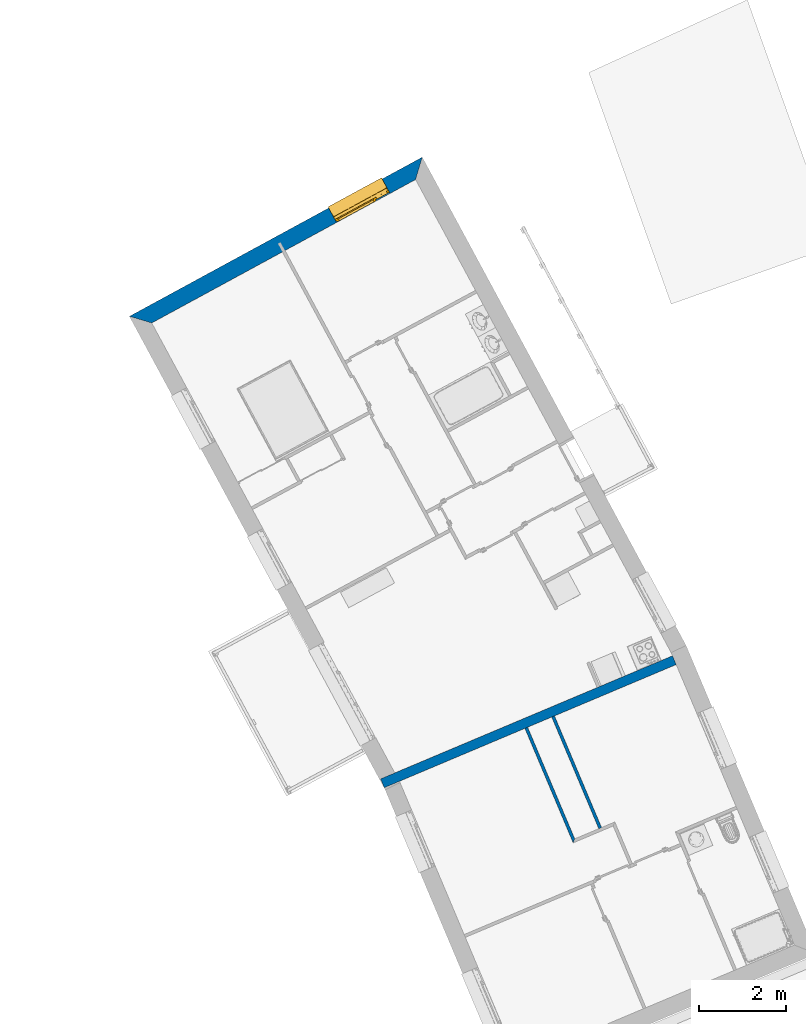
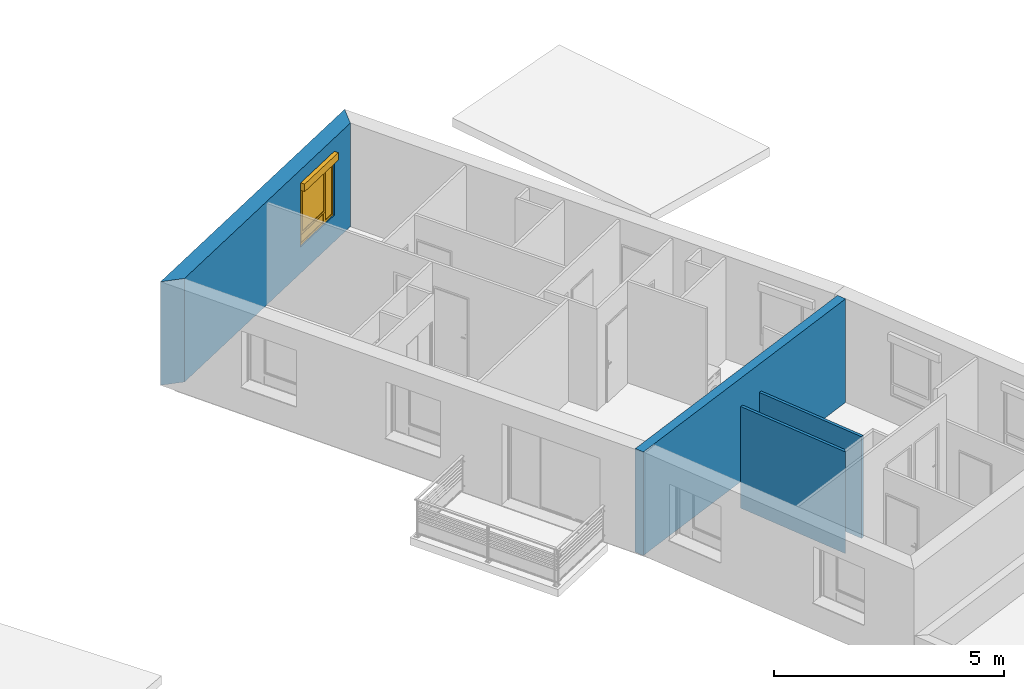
# One storey, part 54 of 121: 4 walls, 1 window, 1 opening.
"""IFC2X3 building model written with IfcOpenShell, lengths in metres."""

from ifc_helpers import new_model, entity, si_unit, converted_unit, derived_unit, money_unit, direction, frame, origin_with_axes, place, context, subcontext, project, spatial, polyline, outline, extrude, open_shell, faceted_brep, surface_model, source, transform, mapped, material, layer, layer_set, layer_usage, type_object, element, fill, save


model = new_model("IFC2X3")

# Units and contexts
model_context = context("Model", 3, precision=1e-05, world=origin_with_axes(), true_north=direction((0.0, 1.0)))
body_context = subcontext(model_context, "Body", "Model", "MODEL_VIEW")
ifc_project = project(units=[si_unit("LENGTHUNIT", "METRE"), si_unit("AREAUNIT", "SQUARE_METRE"), si_unit("VOLUMEUNIT", "CUBIC_METRE"), converted_unit("PLANEANGLEUNIT", "DEGREE", entity("IfcPlaneAngleMeasure", 0.0174532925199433), si_unit("PLANEANGLEUNIT", "RADIAN"), dimensions=[0, 0, 0, 0, 0, 0, 0]), money_unit("CHF"), converted_unit("TIMEUNIT", "Year", entity("IfcTimeMeasure", 31557600.0), si_unit("TIMEUNIT", "SECOND"), dimensions=[0, 0, 1, 0, 0, 0, 0]), si_unit("MASSUNIT", "GRAM", prefix="KILO"), si_unit("THERMODYNAMICTEMPERATUREUNIT", "DEGREE_CELSIUS"), si_unit("LUMINOUSINTENSITYUNIT", "LUMEN"), si_unit("ENERGYUNIT", "JOULE", prefix="MEGA"), derived_unit("THERMALCONDUCTANCEUNIT", [(si_unit("POWERUNIT", "WATT"), 1), (si_unit("LENGTHUNIT", "METRE"), -1), (si_unit("THERMODYNAMICTEMPERATUREUNIT", "KELVIN"), -1)]), derived_unit("SPECIFICHEATCAPACITYUNIT", [(si_unit("ENERGYUNIT", "JOULE"), 1), (si_unit("MASSUNIT", "GRAM", prefix="KILO"), -1), (si_unit("THERMODYNAMICTEMPERATUREUNIT", "KELVIN"), -1)]), derived_unit("MASSDENSITYUNIT", [(si_unit("MASSUNIT", "GRAM", prefix="KILO"), 1), (si_unit("VOLUMEUNIT", "CUBIC_METRE"), -1)])], contexts=[model_context])

# Site, building, storey
site_placement = place(None, origin_with_axes())
site = spatial("IfcSite", under=ifc_project, at=site_placement, Name="Site", CompositionType="ELEMENT")
building_placement = place(site_placement, origin_with_axes())
building = spatial("IfcBuilding", under=site, at=building_placement, Name="Bâtiment", CompositionType="ELEMENT")
storey_placement = place(building_placement, frame((0.0, 0.0, 2.75), z_axis=(0.0, 0.0, 1.0), x_axis=(1.0, 0.0, 0.0)))
storey = spatial("IfcBuildingStorey", under=building, at=storey_placement, Name="Etage 1", CompositionType="ELEMENT", Elevation=2.75)

# Walls
ifc_material_1 = material(Name="Hachure solide 268963992")
ifc_layer_1 = layer(ifc_material_1, 0.07, ventilated="UNKNOWN")
ifc_layer_set_1 = layer_set([ifc_layer_1], Name="Cloison 70 0826278243")
ifc_layer_usage_1 = layer_usage(ifc_layer_set_1, "AXIS2", "NEGATIVE", 0.0)
wall_type_1 = type_object("IfcWallType", Name="Cloison 70 0826278243 70", PredefinedType="NOTDEFINED")
wall_1_placement = place(storey_placement, frame((9563.625403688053, -1036.921802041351, 57.0), z_axis=(0.0, 0.0, 1.0), x_axis=(0.3885669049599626, -0.9214205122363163, 0.0)))
element("IfcWallStandardCase", 1, at=wall_1_placement, inside=storey, type_object=wall_type_1, material=ifc_layer_usage_1, Name="Mur-150", context=body_context, shape_type="SweptSolid", body=[
    extrude(outline(polyline([(0.2200000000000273, -0.06999999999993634), (3.077648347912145, -0.06999999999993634), (3.007648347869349, 0.0), (0.219999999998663, 0.0), (0.2200000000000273, -0.06999999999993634)])), origin_with_axes(), (0.0, 0.0, 1.0), 2.7),
])
ifc_layer_usage_2 = layer_usage(ifc_layer_set_1, "AXIS2", "NEGATIVE", 0.0)
wall_2_placement = place(storey_placement, frame((9564.242755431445, -1036.661462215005, 57.0), z_axis=(0.0, 0.0, 1.0), x_axis=(0.3885669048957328, -0.9214205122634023, 0.0)))
element("IfcWallStandardCase", 2, at=wall_2_placement, inside=storey, type_object=wall_type_1, material=ifc_layer_usage_2, Name="Mur-150", context=body_context, shape_type="SweptSolid", body=[
    extrude(outline(polyline([(0.2199999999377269, -0.07000000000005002), (3.007648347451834, -0.07000000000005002), (3.007648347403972, 0.0), (0.2199999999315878, 0.0), (0.2199999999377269, -0.07000000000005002)])), origin_with_axes(), (0.0, 0.0, 1.0), 2.7),
])

# Wall, opening, window
ifc_material_2 = material(Name="Parpaing 312445824")
ifc_layer_2 = layer(ifc_material_2, 0.22, ventilated="UNKNOWN")
ifc_material_3 = material(Name="Isolant styromousse 301821074")
ifc_layer_3 = layer(ifc_material_3, 0.16, ventilated="UNKNOWN")
ifc_layer_set_2 = layer_set([ifc_layer_2, ifc_layer_3], Name="isol int 22+16 0836643197")
ifc_layer_usage_3 = layer_usage(ifc_layer_set_2, "AXIS2", "POSITIVE", 0.0)
wall_type_2 = type_object("IfcWallType", Name="isol int 22+16 0836643197 380", PredefinedType="NOTDEFINED")
wall_3_placement = place(storey_placement, frame((9561.285709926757, -1024.008620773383, 57.7), z_axis=(0.0, 0.0, 1.0), x_axis=(-0.8785914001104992, -0.4775742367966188, 0.0)))
wall_3 = element("IfcWallStandardCase", 3, at=wall_3_placement, inside=storey, type_object=wall_type_2, material=ifc_layer_usage_3, Name="Mur-113", context=body_context, shape_type="SweptSolid", body=[
    extrude(outline(polyline([(0.0, 0.0), (7.669939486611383, 0.0), (7.29091314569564, 0.3799999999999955), (0.3809761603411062, 0.3799999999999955), (0.0, 0.0)])), origin_with_axes(), (0.0, 0.0, 1.0), 2.75),
])
opening_placement = place(wall_3_placement, frame((1.750943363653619, 0.0, 0.7000000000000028), z_axis=(0.0, 0.0, 1.0), x_axis=(1.0, 0.0, 0.0)))
opening = element("IfcOpeningElement", 4, at=opening_placement, cuts=wall_3, Name="Fen-045", context=body_context, shape_type="Brep", body=[
    faceted_brep([(-0.7000000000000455, 0.3000000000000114, 1.5), (-0.7000000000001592, 0.4800000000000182, 1.5), (-0.7000000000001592, 3.599249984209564, 1.5), (-0.7000000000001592, 3.599249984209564, 0.0), (-0.7000000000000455, 0.3000000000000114, 0.0), (-0.7000000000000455, 0.2200000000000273, 1.5), (-0.7000000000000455, 0.2200000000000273, 1.700000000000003), (-0.7000000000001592, 0.4800000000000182, 1.700000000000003), (0.6999999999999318, 0.480000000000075, 1.5), (0.6999999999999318, 3.599249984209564, 1.5), (0.6999999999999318, 3.599249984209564, 0.0), (0.6999999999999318, 0.2999999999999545, 0.0), (-0.7000000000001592, -3.219249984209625, 0.0), (-0.7000000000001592, -3.219249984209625, 1.5), (0.6999999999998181, 0.2200000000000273, 1.5), (0.6999999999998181, 0.2200000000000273, 1.700000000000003), (0.6999999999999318, 0.480000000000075, 1.700000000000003), (0.6999999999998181, 0.2999999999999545, 1.5), (0.6999999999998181, -3.219249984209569, 0.0), (0.6999999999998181, -3.219249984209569, 1.5)], [[[0, 1, 2, 3, 4]], [[1, 0, 5, 6, 7]], [[1, 8, 9, 2]], [[9, 10, 3, 2]], [[11, 4, 3, 10]], [[5, 0, 4, 12, 13]], [[5, 14, 15, 6]], [[7, 6, 15, 16]], [[8, 1, 7, 16]], [[8, 17, 11, 10, 9]], [[4, 11, 18, 12]], [[13, 12, 18, 19]], [[14, 5, 13, 19]], [[17, 8, 16, 15, 14]], [[17, 14, 19, 18, 11]]]),
])
window_style = type_object("IfcWindowStyle", Name="Fenêtre variable 27", ConstructionType="NOTDEFINED", OperationType="TRIPLE_PANEL_LEFT", ParameterTakesPrecedence=False, Sizeable=False)
shared_shape = source(origin_with_axes(), body_context, "Body", "SurfaceModel", [
    surface_model("IfcShellBasedSurfaceModel", [(0.7, -0.05100000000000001, 0.05), (-0.7, -0.05100000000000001, 0.05000000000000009), (-0.7, -0.05100000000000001, 0.04000000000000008), (0.7, -0.05100000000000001, 0.04), (-0.7, -0.3799999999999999, 0.02900000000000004), (0.7, -0.3799999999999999, 0.02899999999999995), (-0.7, -0.3799999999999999, 0.00900000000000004), (0.7, -0.3799999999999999, 0.008999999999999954), (-0.7, -0.3699999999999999, 0.01900000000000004), (0.7, -0.3699999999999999, 0.01899999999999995)], [open_shell([[[0, 1, 2, 3]], [[3, 2, 4, 5]], [[5, 4, 6, 7]], [[7, 6, 8, 9]]])]),
    faceted_brep([(0.7, -0.13, 1.7), (0.7, 0.13, 1.7), (0.697, 0.13, 1.7), (0.697, -0.13, 1.7), (0.7, -0.13, 1.5), (0.7, 0.13, 1.5), (0.697, 0.13, 1.5), (0.697, -0.13, 1.5)], [[[0, 1, 2, 3]], [[0, 4, 5, 1]], [[1, 5, 6, 2]], [[3, 2, 6, 7]], [[4, 0, 3, 7]], [[5, 4, 7, 6]]]),
    faceted_brep([(-0.6970000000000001, -0.1299999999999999, 1.7), (-0.6970000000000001, 0.1300000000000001, 1.7), (-0.7000000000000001, 0.1300000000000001, 1.7), (-0.7000000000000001, -0.1299999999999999, 1.7), (-0.6970000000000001, -0.1299999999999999, 1.5), (-0.6970000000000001, 0.1300000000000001, 1.5), (-0.7000000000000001, 0.1300000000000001, 1.5), (-0.7000000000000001, -0.1299999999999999, 1.5)], [[[0, 1, 2, 3]], [[0, 4, 5, 1]], [[1, 5, 6, 2]], [[3, 2, 6, 7]], [[4, 0, 3, 7]], [[5, 4, 7, 6]]]),
    faceted_brep([(0.697, -0.13, 1.5), (0.697, -0.13, 1.7), (-0.697, -0.1299999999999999, 1.7), (-0.697, -0.1299999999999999, 1.5), (0.697, -0.127, 1.5), (0.697, -0.127, 1.697), (0.697, 0.127, 1.697), (0.697, 0.127, 1.503), (0.697, -0.108, 1.503), (0.697, -0.108, 1.5), (0.697, 0.13, 1.5), (0.697, 0.13, 1.7), (-0.697, 0.1300000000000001, 1.7), (-0.697, 0.1300000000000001, 1.5), (-0.697, -0.1079999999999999, 1.5), (-0.697, -0.1079999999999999, 1.503), (-0.697, 0.1270000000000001, 1.503), (-0.697, 0.1270000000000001, 1.697), (-0.697, -0.1269999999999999, 1.697), (-0.697, -0.1269999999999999, 1.5)], [[[0, 1, 2, 3]], [[0, 4, 5, 6, 7, 8, 9, 10, 11, 1]], [[1, 11, 12, 2]], [[3, 2, 12, 13, 14, 15, 16, 17, 18, 19]], [[4, 0, 3, 19]], [[5, 4, 19, 18]], [[6, 5, 18, 17]], [[7, 6, 17, 16]], [[8, 7, 16, 15]], [[9, 8, 15, 14]], [[10, 9, 14, 13]], [[11, 10, 13, 12]]]),
    faceted_brep([(0.694, -0.08075423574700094, 1.585760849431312), (0.694, -0.07705479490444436, 1.571954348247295), (0.694, -0.07101408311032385, 1.559), (0.694, -0.06281564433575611, 1.547291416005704), (0.694, -0.05270858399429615, 1.537184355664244), (0.694, -0.04099999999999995, 1.528985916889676), (0.694, -0.02804565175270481, 1.522945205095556), (0.694, -0.01423915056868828, 1.519245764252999), (0.694, 0.0, 1.518), (0.694, 0.01423915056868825, 1.519245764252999), (0.694, 0.02804565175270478, 1.522945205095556), (0.694, 0.04099999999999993, 1.528985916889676), (0.694, 0.05270858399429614, 1.537184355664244), (0.694, 0.06281564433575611, 1.547291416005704), (0.694, 0.07101408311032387, 1.559), (0.694, 0.07705479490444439, 1.571954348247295), (0.694, 0.08075423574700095, 1.585760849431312), (0.694, 0.0819999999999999, 1.6), (0.694, 0.08075423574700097, 1.614239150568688), (0.694, 0.0770547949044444, 1.628045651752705), (0.694, 0.07101408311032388, 1.641), (0.694, 0.06281564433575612, 1.652708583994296), (0.694, 0.05270858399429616, 1.662815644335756), (0.694, 0.04099999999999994, 1.671014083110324), (0.694, 0.02804565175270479, 1.677054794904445), (0.694, 0.01423915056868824, 1.680754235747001), (0.694, 0.0, 1.682), (0.694, -0.01423915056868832, 1.680754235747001), (0.694, -0.02804565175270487, 1.677054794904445), (0.694, -0.04100000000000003, 1.671014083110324), (0.694, -0.05270858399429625, 1.662815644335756), (0.694, -0.06281564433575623, 1.652708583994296), (0.694, -0.07101408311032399, 1.641), (0.694, -0.07705479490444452, 1.628045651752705), (0.694, -0.0807542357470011, 1.614239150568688), (0.694, -0.08200000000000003, 1.6), (-0.694, -0.08075423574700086, 1.585760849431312), (-0.694, -0.07705479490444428, 1.571954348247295), (-0.694, -0.07101408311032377, 1.559), (-0.694, -0.06281564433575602, 1.547291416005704), (-0.694, -0.05270858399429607, 1.537184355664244), (-0.694, -0.04099999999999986, 1.528985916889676), (-0.694, -0.02804565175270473, 1.522945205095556), (-0.694, -0.0142391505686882, 1.519245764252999), (-0.694, 0.0, 1.518), (-0.694, 0.01423915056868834, 1.519245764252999), (-0.694, 0.02804565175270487, 1.522945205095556), (-0.694, 0.04100000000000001, 1.528985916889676), (-0.694, 0.05270858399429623, 1.537184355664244), (-0.694, 0.06281564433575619, 1.547291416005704), (-0.694, 0.07101408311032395, 1.559), (-0.694, 0.07705479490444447, 1.571954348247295), (-0.694, 0.08075423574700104, 1.585760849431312), (-0.694, 0.08199999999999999, 1.6), (-0.694, 0.08075423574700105, 1.614239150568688), (-0.694, 0.07705479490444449, 1.628045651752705), (-0.694, 0.07101408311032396, 1.641), (-0.694, 0.0628156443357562, 1.652708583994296), (-0.694, 0.05270858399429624, 1.662815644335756), (-0.694, 0.04100000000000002, 1.671014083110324), (-0.694, 0.02804565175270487, 1.677054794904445), (-0.694, 0.01423915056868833, 1.680754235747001), (-0.694, 0.0, 1.682), (-0.694, -0.01423915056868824, 1.680754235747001), (-0.694, -0.02804565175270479, 1.677054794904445), (-0.694, -0.04099999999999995, 1.671014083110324), (-0.694, -0.05270858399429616, 1.662815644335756), (-0.694, -0.06281564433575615, 1.652708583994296), (-0.694, -0.07101408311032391, 1.641), (-0.694, -0.07705479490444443, 1.628045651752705), (-0.694, -0.08075423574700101, 1.614239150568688), (-0.694, -0.08199999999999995, 1.6)], [[[0, 1, 2, 3, 4, 5, 6, 7, 8, 9, 10, 11, 12, 13, 14, 15, 16, 17, 18, 19, 20, 21, 22, 23, 24, 25, 26, 27, 28, 29, 30, 31, 32, 33, 34, 35]], [[1, 0, 36, 37]], [[2, 1, 37, 38]], [[3, 2, 38, 39]], [[4, 3, 39, 40]], [[5, 4, 40, 41]], [[6, 5, 41, 42]], [[7, 6, 42, 43]], [[8, 7, 43, 44]], [[9, 8, 44, 45]], [[10, 9, 45, 46]], [[11, 10, 46, 47]], [[12, 11, 47, 48]], [[13, 12, 48, 49]], [[14, 13, 49, 50]], [[15, 14, 50, 51]], [[16, 15, 51, 52]], [[17, 16, 52, 53]], [[18, 17, 53, 54]], [[19, 18, 54, 55]], [[20, 19, 55, 56]], [[21, 20, 56, 57]], [[22, 21, 57, 58]], [[23, 22, 58, 59]], [[24, 23, 59, 60]], [[25, 24, 60, 61]], [[26, 25, 61, 62]], [[27, 26, 62, 63]], [[28, 27, 63, 64]], [[29, 28, 64, 65]], [[30, 29, 65, 66]], [[31, 30, 66, 67]], [[32, 31, 67, 68]], [[33, 32, 68, 69]], [[34, 33, 69, 70]], [[35, 34, 70, 71]], [[0, 35, 71, 36]], [[36, 71, 70, 69, 68, 67, 66, 65, 64, 63, 62, 61, 60, 59, 58, 57, 56, 55, 54, 53, 52, 51, 50, 49, 48, 47, 46, 45, 44, 43, 42, 41, 40, 39, 38, 37]]]),
    faceted_brep([(-0.7, -0.105, 0.03), (-0.7, -0.13, 0.03), (-0.7, -0.1299999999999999, 1.5), (-0.7, -0.1049999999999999, 1.5), (-0.6749999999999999, -0.105, 0.03), (-0.6749999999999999, -0.108, 0.03), (-0.697, -0.108, 0.03), (-0.697, -0.127, 0.03), (-0.6749999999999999, -0.127, 0.03), (-0.6749999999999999, -0.13, 0.03), (-0.6749999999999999, -0.1299999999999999, 1.5), (-0.6749999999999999, -0.1269999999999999, 1.5), (-0.697, -0.1269999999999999, 1.5), (-0.697, -0.1079999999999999, 1.5), (-0.6749999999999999, -0.1079999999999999, 1.5), (-0.6749999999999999, -0.1049999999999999, 1.5)], [[[0, 1, 2, 3]], [[0, 4, 5, 6, 7, 8, 9, 1]], [[1, 9, 10, 2]], [[3, 2, 10, 11, 12, 13, 14, 15]], [[4, 0, 3, 15]], [[5, 4, 15, 14]], [[6, 5, 14, 13]], [[7, 6, 13, 12]], [[8, 7, 12, 11]], [[9, 8, 11, 10]]]),
    faceted_brep([(0.7, -0.105, 0.03), (0.7, -0.1049999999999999, 1.5), (0.7, -0.1299999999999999, 1.5), (0.7, -0.13, 0.03), (0.6749999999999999, -0.105, 0.03), (0.6749999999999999, -0.1049999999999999, 1.5), (0.6749999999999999, -0.1079999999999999, 1.5), (0.697, -0.1079999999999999, 1.5), (0.697, -0.1269999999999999, 1.5), (0.6749999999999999, -0.1269999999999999, 1.5), (0.6749999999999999, -0.1299999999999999, 1.5), (0.6749999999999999, -0.13, 0.03), (0.6749999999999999, -0.127, 0.03), (0.697, -0.127, 0.03), (0.697, -0.108, 0.03), (0.6749999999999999, -0.108, 0.03)], [[[0, 1, 2, 3]], [[4, 5, 1, 0]], [[1, 5, 6, 7, 8, 9, 10, 2]], [[3, 2, 10, 11]], [[0, 3, 11, 12, 13, 14, 15, 4]], [[15, 6, 5, 4]], [[14, 7, 6, 15]], [[13, 8, 7, 14]], [[12, 9, 8, 13]], [[11, 10, 9, 12]]]),
    surface_model("IfcShellBasedSurfaceModel", [(0.697, -0.115, 1.6), (-0.697, -0.1149999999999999, 1.6), (-0.697, -0.12, 1.6), (0.697, -0.12, 1.6), (0.697, -0.115, 1.6), (0.697, -0.12, 1.6), (-0.697, -0.1199999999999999, 1.6), (-0.697, -0.1149999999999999, 1.6)], [open_shell([[[0, 1, 2, 3]], [[4, 5, 6, 7]]])]),
    faceted_brep([(0.697, -0.115, 1.6), (0.697, -0.1166666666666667, 1.583333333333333), (-0.697, -0.1166666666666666, 1.583333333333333), (-0.697, -0.1149999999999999, 1.6), (0.697, -0.12, 1.6), (0.697, -0.1216666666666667, 1.583333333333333), (0.697, -0.1216666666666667, 1.566666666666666), (0.697, -0.12, 1.55), (0.697, -0.115, 1.55), (0.697, -0.1166666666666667, 1.566666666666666), (-0.697, -0.1166666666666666, 1.566666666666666), (-0.697, -0.1149999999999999, 1.55), (-0.697, -0.1199999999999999, 1.55), (-0.697, -0.1216666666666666, 1.566666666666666), (-0.697, -0.1216666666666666, 1.583333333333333), (-0.697, -0.1199999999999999, 1.6)], [[[0, 1, 2, 3]], [[0, 4, 5, 6, 7, 8, 9, 1]], [[1, 9, 10, 2]], [[3, 2, 10, 11, 12, 13, 14, 15]], [[4, 0, 3, 15]], [[5, 4, 15, 14]], [[6, 5, 14, 13]], [[7, 6, 13, 12]], [[8, 7, 12, 11]], [[9, 8, 11, 10]]]),
    faceted_brep([(0.697, -0.115, 1.55), (0.697, -0.1166666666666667, 1.533333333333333), (-0.697, -0.1166666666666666, 1.533333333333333), (-0.697, -0.1149999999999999, 1.55), (0.697, -0.12, 1.55), (0.697, -0.1216666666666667, 1.533333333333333), (0.697, -0.1216666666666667, 1.516666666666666), (0.697, -0.12, 1.5), (0.697, -0.115, 1.5), (0.697, -0.1166666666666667, 1.516666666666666), (-0.697, -0.1166666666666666, 1.516666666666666), (-0.697, -0.1149999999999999, 1.5), (-0.697, -0.1199999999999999, 1.5), (-0.697, -0.1216666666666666, 1.516666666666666), (-0.697, -0.1216666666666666, 1.533333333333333), (-0.697, -0.1199999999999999, 1.55)], [[[0, 1, 2, 3]], [[0, 4, 5, 6, 7, 8, 9, 1]], [[1, 9, 10, 2]], [[3, 2, 10, 11, 12, 13, 14, 15]], [[4, 0, 3, 15]], [[5, 4, 15, 14]], [[6, 5, 14, 13]], [[7, 6, 13, 12]], [[8, 7, 12, 11]], [[9, 8, 11, 10]]]),
    faceted_brep([(0.6749999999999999, 0.0, 1.45), (0.6749999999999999, -0.02500000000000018, 1.45), (0.6499999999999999, -0.02500000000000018, 1.45), (0.6499999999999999, -0.05000000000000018, 1.45), (0.7, -0.05000000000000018, 1.45), (0.7, 0.0, 1.45), (0.6749999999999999, 0.0, 0.3099999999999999), (0.6749999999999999, -0.02500000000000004, 0.3099999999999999), (0.6499999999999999, -0.02500000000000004, 0.335), (0.6499999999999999, -0.02500000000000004, 0.3099999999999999), (0.6499999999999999, -0.05000000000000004, 0.335), (0.6499999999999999, -0.05000000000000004, 0.265), (0.6499999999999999, -0.05000000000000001, 0.05000000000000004), (0.7, -0.05000000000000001, 0.05000000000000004), (0.7, 0.0, 0.05000000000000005), (0.6499999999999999, 0.0, 0.05000000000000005), (0.6499999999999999, 0.0, 0.265), (0.6499999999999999, 0.0, 0.3099999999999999)], [[[0, 1, 2, 3, 4, 5]], [[1, 0, 6, 7]], [[8, 2, 1, 7, 9]], [[2, 8, 10, 3]], [[10, 11, 12, 13, 4, 3]], [[5, 4, 13, 14]], [[6, 0, 5, 14, 15, 16, 17]], [[6, 17, 9, 7]], [[9, 17, 16, 11, 10, 8]], [[15, 12, 11, 16]], [[14, 13, 12, 15]]]),
    faceted_brep([(-0.3068894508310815, -0.02500000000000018, 1.45), (-0.3318894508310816, -0.02500000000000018, 1.45), (-0.3318894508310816, 0.0, 1.45), (-0.3768894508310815, 0.0, 1.45), (-0.3768894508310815, -0.05000000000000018, 1.45), (-0.3068894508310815, -0.05000000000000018, 1.45), (-0.3068894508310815, -0.02500000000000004, 0.335), (-0.3068894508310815, -0.02500000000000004, 0.3099999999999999), (-0.3318894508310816, -0.02500000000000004, 0.3099999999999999), (-0.3318894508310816, 0.0, 0.3099999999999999), (-0.3068894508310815, 0.0, 0.3099999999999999), (-0.3068894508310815, 0.0, 0.265), (-0.3068894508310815, 0.0, 0.05000000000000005), (-0.3768894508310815, 0.0, 0.05000000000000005), (-0.3768894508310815, -0.05000000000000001, 0.05000000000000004), (-0.3068894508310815, -0.05000000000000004, 0.265), (-0.3068894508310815, -0.05000000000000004, 0.335), (-0.3068894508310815, -0.05000000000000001, 0.05000000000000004)], [[[0, 1, 2, 3, 4, 5]], [[1, 0, 6, 7, 8]], [[9, 2, 1, 8]], [[9, 10, 11, 12, 13, 3, 2]], [[13, 14, 4, 3]], [[15, 16, 5, 4, 14, 17]], [[6, 0, 5, 16]], [[7, 6, 16, 15, 11, 10]], [[10, 9, 8, 7]], [[11, 15, 17, 12]], [[12, 17, 14, 13]]]),
    faceted_brep([(0.6499999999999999, -0.02500000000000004, 0.335), (-0.3068894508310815, -0.02500000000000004, 0.335), (-0.3068894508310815, -0.05000000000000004, 0.335), (0.6499999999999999, -0.05000000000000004, 0.335), (-0.3068894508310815, -0.02500000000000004, 0.3099999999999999), (0.6499999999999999, -0.02500000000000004, 0.3099999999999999), (-0.3068894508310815, 0.0, 0.3099999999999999), (-0.3068894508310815, 0.0, 0.265), (-0.3068894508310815, -0.05000000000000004, 0.265), (0.6499999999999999, -0.05000000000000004, 0.265), (0.6499999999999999, 0.0, 0.265), (0.6499999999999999, 0.0, 0.3099999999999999)], [[[0, 1, 2, 3]], [[4, 1, 0, 5]], [[4, 6, 7, 8, 2, 1]], [[2, 8, 9, 3]], [[5, 0, 3, 9, 10, 11]], [[11, 6, 4, 5]], [[6, 11, 10, 7]], [[10, 9, 8, 7]]]),
    faceted_brep([(0.6749999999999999, 0.0, 1.45), (0.6749999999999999, 0.0, 1.475), (-0.3318894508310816, 0.0, 1.475), (-0.3318894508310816, 0.0, 1.45), (-0.3768894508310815, 0.0, 1.45), (-0.6499999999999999, 0.0, 1.45), (-0.7, 0.0, 1.45), (-0.7, 0.0, 1.5), (0.7, 0.0, 1.5), (0.7, 0.0, 1.45), (0.6749999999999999, -0.02500000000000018, 1.45), (0.6749999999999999, -0.02500000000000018, 1.475), (-0.3318894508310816, -0.02500000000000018, 1.475), (-0.3318894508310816, -0.02500000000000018, 1.45), (-0.3068894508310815, -0.02500000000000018, 1.45), (-0.3068894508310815, -0.05000000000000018, 1.45), (-0.3768894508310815, -0.05000000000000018, 1.45), (-0.6499999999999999, -0.05000000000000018, 1.45), (-0.7, -0.05000000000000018, 1.45), (-0.7, -0.05000000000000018, 1.5), (0.7, -0.05000000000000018, 1.5), (0.7, -0.05000000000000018, 1.45), (0.6499999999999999, -0.05000000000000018, 1.45), (0.6499999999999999, -0.02500000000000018, 1.45)], [[[0, 1, 2, 3, 4, 5, 6, 7, 8, 9]], [[1, 0, 10, 11]], [[2, 1, 11, 12]], [[3, 2, 12, 13]], [[13, 14, 15, 16, 4, 3]], [[4, 16, 17, 5]], [[5, 17, 18, 6]], [[6, 18, 19, 7]], [[7, 19, 20, 8]], [[8, 20, 21, 9]], [[10, 0, 9, 21, 22, 23]], [[14, 13, 12, 11, 10, 23]], [[14, 23, 22, 15]], [[16, 15, 22, 21, 20, 19, 18, 17]]]),
    faceted_brep([(-0.6499999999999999, -0.05000000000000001, 0.05), (-0.7, -0.05000000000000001, 0.05), (-0.7, 0.0, 0.05000000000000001), (-0.6499999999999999, 0.0, 0.05000000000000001), (-0.6499999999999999, -0.05000000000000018, 1.45), (-0.7, -0.05000000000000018, 1.45), (-0.7, 0.0, 1.45), (-0.6499999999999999, 0.0, 1.45)], [[[0, 1, 2, 3]], [[0, 4, 5, 1]], [[1, 5, 6, 2]], [[3, 2, 6, 7]], [[4, 0, 3, 7]], [[5, 4, 7, 6]]]),
    faceted_brep([(0.6499999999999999, -0.05000000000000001, 0.05), (0.7, -0.05000000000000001, 0.05), (0.7, 0.0, 0.05000000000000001), (0.6499999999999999, 0.0, 0.05000000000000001), (-0.3068894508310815, -0.05000000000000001, 0.05), (-0.3768894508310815, -0.05000000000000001, 0.05), (-0.6499999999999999, -0.05000000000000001, 0.05), (-0.7, -0.05000000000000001, 0.05), (-0.7, -0.05, 0.0), (0.7, -0.05, 0.0), (0.7, 0.0, 0.0), (-0.7, 0.0, 0.0), (-0.7, 0.0, 0.05000000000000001), (-0.6499999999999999, 0.0, 0.05000000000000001), (-0.3768894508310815, 0.0, 0.05000000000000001), (-0.3068894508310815, 0.0, 0.05000000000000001)], [[[0, 1, 2, 3]], [[0, 4, 5, 6, 7, 8, 9, 1]], [[1, 9, 10, 2]], [[3, 2, 10, 11, 12, 13, 14, 15]], [[4, 0, 3, 15]], [[5, 4, 15, 14]], [[6, 5, 14, 13]], [[7, 6, 13, 12]], [[8, 7, 12, 11]], [[9, 8, 11, 10]]]),
    faceted_brep([(0.625, -0.02500000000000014, 1.425), (0.6749999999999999, -0.02500000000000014, 1.425), (0.6749999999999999, 0.02499999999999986, 1.425), (0.625, 0.02499999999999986, 1.425), (0.625, -0.02500000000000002, 0.3599999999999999), (0.6749999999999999, -0.02500000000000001, 0.3599999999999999), (0.6749999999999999, 0.02499999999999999, 0.3599999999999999), (0.625, 0.02499999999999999, 0.3599999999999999)], [[[0, 1, 2, 3]], [[0, 4, 5, 1]], [[1, 5, 6, 2]], [[3, 2, 6, 7]], [[4, 0, 3, 7]], [[5, 4, 7, 6]]]),
    faceted_brep([(-0.2818894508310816, -0.02500000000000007, 0.3599999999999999), (-0.3318894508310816, -0.02500000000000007, 0.3599999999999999), (-0.3318894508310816, 0.02499999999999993, 0.3599999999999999), (-0.2818894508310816, 0.02499999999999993, 0.3599999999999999), (-0.2818894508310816, -0.0250000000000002, 1.425), (-0.3318894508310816, -0.0250000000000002, 1.425), (-0.3318894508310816, 0.0249999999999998, 1.425), (-0.2818894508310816, 0.0249999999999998, 1.425)], [[[0, 1, 2, 3]], [[0, 4, 5, 1]], [[1, 5, 6, 2]], [[3, 2, 6, 7]], [[4, 0, 3, 7]], [[5, 4, 7, 6]]]),
    faceted_brep([(-0.3318894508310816, -0.02500000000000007, 0.3099999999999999), (-0.3318894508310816, -0.02500000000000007, 0.3599999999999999), (-0.3318894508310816, 0.02499999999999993, 0.3599999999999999), (-0.3318894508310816, 0.02499999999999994, 0.3099999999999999), (0.6749999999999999, -0.025, 0.3099999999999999), (0.6749999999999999, -0.02500000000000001, 0.3599999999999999), (0.625, -0.02500000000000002, 0.3599999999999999), (-0.2818894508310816, -0.02500000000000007, 0.3599999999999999), (-0.2818894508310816, 0.02499999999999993, 0.3599999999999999), (0.625, 0.02499999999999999, 0.3599999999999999), (0.6749999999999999, 0.02499999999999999, 0.3599999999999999), (0.6749999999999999, 0.02499999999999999, 0.3099999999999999)], [[[0, 1, 2, 3]], [[0, 4, 5, 6, 7, 1]], [[1, 7, 8, 2]], [[3, 2, 8, 9, 10, 11]], [[4, 0, 3, 11]], [[5, 4, 11, 10]], [[6, 5, 10, 9]], [[7, 6, 9, 8]]]),
    faceted_brep([(0.6749999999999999, -0.02500000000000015, 1.475), (0.6749999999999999, -0.02500000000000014, 1.425), (0.6749999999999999, 0.02499999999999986, 1.425), (0.6749999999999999, 0.02499999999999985, 1.475), (-0.3318894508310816, -0.02500000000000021, 1.475), (-0.3318894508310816, -0.0250000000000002, 1.425), (-0.2818894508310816, -0.0250000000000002, 1.425), (0.625, -0.02500000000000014, 1.425), (0.625, 0.02499999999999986, 1.425), (-0.2818894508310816, 0.0249999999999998, 1.425), (-0.3318894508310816, 0.0249999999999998, 1.425), (-0.3318894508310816, 0.02499999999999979, 1.475)], [[[0, 1, 2, 3]], [[0, 4, 5, 6, 7, 1]], [[1, 7, 8, 2]], [[3, 2, 8, 9, 10, 11]], [[4, 0, 3, 11]], [[5, 4, 11, 10]], [[6, 5, 10, 9]], [[7, 6, 9, 8]]]),
    surface_model("IfcShellBasedSurfaceModel", [(0.625, -0.01000000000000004, 0.3599999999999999), (0.625, -0.01000000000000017, 1.425), (-0.2818894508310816, -0.01000000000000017, 1.425), (-0.2818894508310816, -0.01000000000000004, 0.3599999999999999)], [open_shell([[[0, 1, 2, 3]]])]),
    surface_model("IfcShellBasedSurfaceModel", [(0.625, 0.009999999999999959, 0.3599999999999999), (-0.2818894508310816, 0.009999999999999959, 0.3599999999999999), (-0.2818894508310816, 0.00999999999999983, 1.425), (0.625, 0.00999999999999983, 1.425)], [open_shell([[[0, 1, 2, 3]]])]),
    surface_model("IfcShellBasedSurfaceModel", [(-0.3768894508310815, -0.035, 0.05), (-0.3768894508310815, -0.03500000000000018, 1.45), (-0.65, -0.03500000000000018, 1.45), (-0.65, -0.035, 0.05)], [open_shell([[[0, 1, 2, 3]]])]),
    surface_model("IfcShellBasedSurfaceModel", [(-0.3768894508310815, -0.015, 0.05), (-0.65, -0.015, 0.05), (-0.65, -0.01500000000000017, 1.45), (-0.3768894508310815, -0.01500000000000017, 1.45)], [open_shell([[[0, 1, 2, 3]]])]),
    surface_model("IfcShellBasedSurfaceModel", [(0.6499999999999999, -0.035, 0.05), (0.6499999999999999, -0.03500000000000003, 0.265), (-0.3068894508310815, -0.03500000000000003, 0.265), (-0.3068894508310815, -0.035, 0.05)], [open_shell([[[0, 1, 2, 3]]])]),
    surface_model("IfcShellBasedSurfaceModel", [(0.6499999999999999, -0.015, 0.05), (-0.3068894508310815, -0.015, 0.05), (-0.3068894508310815, -0.01500000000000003, 0.265), (0.6499999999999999, -0.01500000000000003, 0.265)], [open_shell([[[0, 1, 2, 3]]])]),
])
window_placement = place(opening_placement, frame((-0.6999999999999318, 0.0, 0.0), z_axis=(0.0, 0.0, 1.0), x_axis=(1.0, 0.0, 0.0)))
window = element("IfcWindow", 5, at=window_placement, inside=storey, type_object=window_style, Name="Fen-045", OverallHeight=1.5, OverallWidth=1.4, context=body_context, shape_type="MappedRepresentation", body=[
    mapped(shared_shape, transform((0.6999999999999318, 0.3500000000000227, 0.0))),
])
fill(opening, window)

# Wall
ifc_material_4 = material(Name="Parpaing 314940890")
ifc_layer_4 = layer(ifc_material_4, 0.22, ventilated="UNKNOWN")
ifc_layer_set_3 = layer_set([ifc_layer_4], Name="Beton  22 0836643197")
ifc_layer_usage_4 = layer_usage(ifc_layer_set_3, "AXIS2", "POSITIVE", 0.0)
wall_type_3 = type_object("IfcWallType", Name="Beton  22 0836643197 220", PredefinedType="NOTDEFINED")
wall_4_placement = place(storey_placement, frame((9567.393046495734, -1035.332971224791, 57.7), z_axis=(0.0, 0.0, 1.0), x_axis=(-0.9214205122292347, -0.3885669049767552, 0.0)))
element("IfcWallStandardCase", 6, at=wall_4_placement, inside=storey, type_object=wall_type_3, material=ifc_layer_usage_4, Name="Mur-105", context=body_context, shape_type="SweptSolid", body=[
    extrude(outline(polyline([(0.3800000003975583, 0.0), (7.669914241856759, 0.0), (7.669914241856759, 0.2199999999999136), (0.380000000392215, 0.2199999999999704), (0.3800000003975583, 0.0)])), origin_with_axes(), (0.0, 0.0, 1.0), 2.750000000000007),
])

save(model, "model.ifc")
